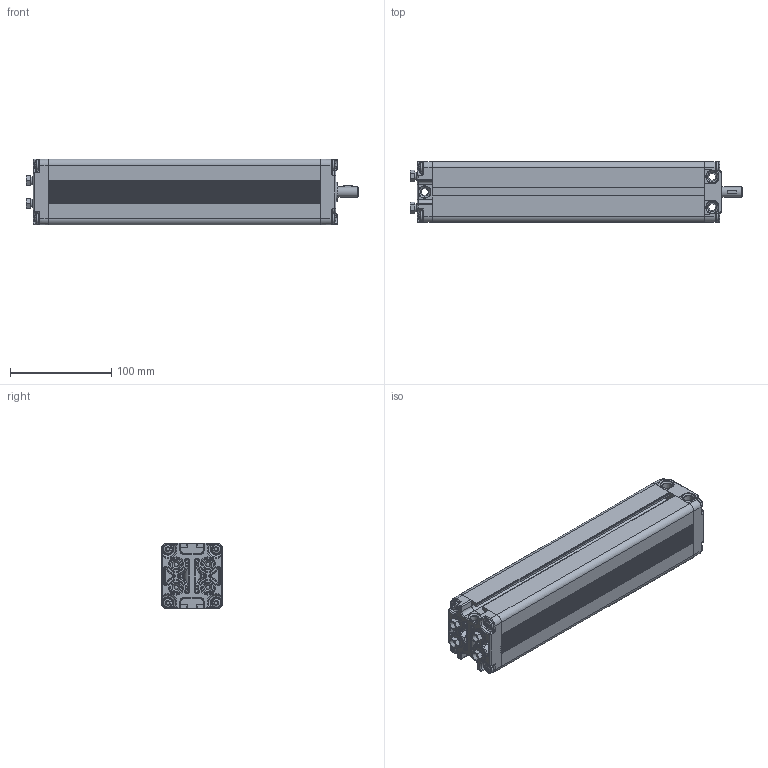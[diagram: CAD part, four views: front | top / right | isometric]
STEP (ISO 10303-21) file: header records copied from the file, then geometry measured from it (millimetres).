
FILE_DESCRIPTION(/* description */ ('Unknown'),/* implementation_level */ '2;1');
FILE_NAME(/* name */ '103.20031 Pumpe PF 4815 W',/* time_stamp */ '2018-01-09T17:23:11+01:00',/* author */ ('Unknown'),/* organization */ ('Unknown'),/* preprocessor_version */ 'ST-DEVELOPER v16.7',/* originating_system */ 'DEX',/* authorisation */ $);
FILE_SCHEMA (('AUTOMOTIVE_DESIGN {1 0 10303 214 3 1 1}'));
Products named in the file (20): 103.20031; 115.10051_oa_0; 125.00126; 115.00008_oa_1; 142.00021; 125.00021; 115.10051_oa_2; 115.00008_oa_3; 142.00013; 115.10051_oa_4; 115.00008_oa_5; 115.10051_oa_6; 115.00008_oa_7; 142.00057; 125.00141; 115.00141; 126.00076; 122.00040; 119.00351; 126.00075
Assembly tree (35 placements, depth 3):
  103.20031
    115.10051_oa_0
      125.00126
      115.00008_oa_1
      142.00021
      125.00021
    115.10051_oa_2
      125.00126
      115.00008_oa_3
      142.00021
      125.00021
    142.00013  x8
    115.10051_oa_4
      125.00126
      115.00008_oa_5
      142.00021
      125.00021
    115.10051_oa_6
      125.00126
      115.00008_oa_7
      142.00021
      125.00021
    142.00057
    125.00141
    115.00141
      126.00076
      122.00040
    119.00351
    126.00075
Bounding box: 327.47 x 60 x 65 mm (x, y, z)
Volume: 400507 mm3; surface area: 239872.2 mm2
Topology: 26 solids, 26 shells, 2344 faces, 5752 edges, 3444 vertices
Faces by surface type: plane 912, cylinder 537, bspline 452, cone 323, torus 108, sphere 12
Full cylindrical faces by diameter (mm): 3.5 x4, 4.1 x4, 4.2 x4, 5 x8, 6.917 x8, 8 x9, 9.8 x8, 10 x3, 10.4 x1, 13 x4, 14 x2, 14.4 x4, 17.9 x8, 18 x1, 19 x1
Entity records: 75490 total; most frequent: CARTESIAN_POINT 38107, ORIENTED_EDGE 8012, DIRECTION 6433, EDGE_CURVE 4006, VERTEX_POINT 2558, AXIS2_PLACEMENT_3D 2249, LINE 1935, VECTOR 1935
